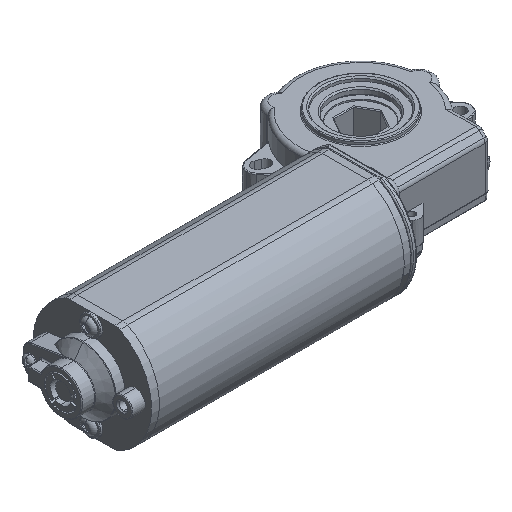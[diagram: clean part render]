
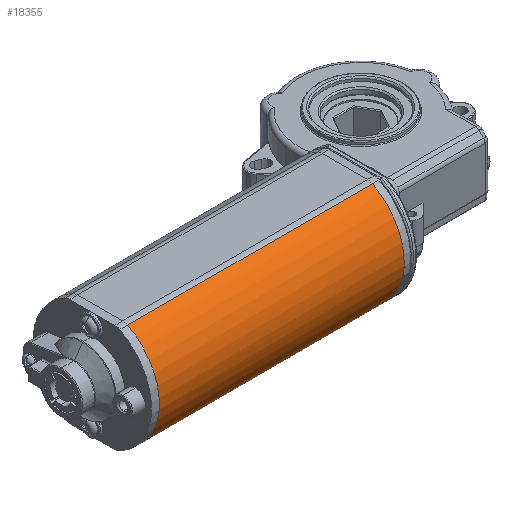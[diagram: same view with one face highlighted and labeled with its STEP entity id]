
A CAD part, isometric view. The second image highlights one B-rep face of the part: STEP entity #18355.
In plain terms, the highlighted cylindrical face has radius 22.5 mm (diameter 45 mm), a partial arc.
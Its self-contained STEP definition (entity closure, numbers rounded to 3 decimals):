
#107 = DIRECTION ( 'NONE',  ( 0., 0., -1. ) ) ;
#470 = DIRECTION ( 'NONE',  ( 1., 0., 0. ) ) ;
#852 = CIRCLE ( 'NONE', #2627, 22.5 ) ;
#1078 = VECTOR ( 'NONE', #32174, 1000. ) ;
#1565 = AXIS2_PLACEMENT_3D ( 'NONE', #14542, #32593, #107 ) ;
#2064 = EDGE_CURVE ( 'NONE', #16540, #20698, #21132, .T. ) ;
#2627 = AXIS2_PLACEMENT_3D ( 'NONE', #22466, #6780, #12507 ) ;
#2992 = FACE_OUTER_BOUND ( 'NONE', #14886, .T. ) ;
#3625 = CARTESIAN_POINT ( 'NONE',  ( -29., -45., -4.717 ) ) ;
#4183 = CARTESIAN_POINT ( 'NONE',  ( -29., -33.421, -19.941 ) ) ;
#5294 = LINE ( 'NONE', #18012, #31855 ) ;
#5464 = CIRCLE ( 'NONE', #25883, 22.5 ) ;
#6780 = DIRECTION ( 'NONE',  ( 1., 0., 0. ) ) ;
#7451 = DIRECTION ( 'NONE',  ( -1., 0., 0. ) ) ;
#7975 = CARTESIAN_POINT ( 'NONE',  ( -29., -23., 0. ) ) ;
#8438 = ORIENTED_EDGE ( 'NONE', *, *, #29490, .F. ) ;
#8440 = ORIENTED_EDGE ( 'NONE', *, *, #23278, .F. ) ;
#8530 = DIRECTION ( 'NONE',  ( 0., 1., 0. ) ) ;
#8867 = AXIS2_PLACEMENT_3D ( 'NONE', #23138, #7451, #32435 ) ;
#9129 = AXIS2_PLACEMENT_3D ( 'NONE', #7975, #470, #8530 ) ;
#9628 = ORIENTED_EDGE ( 'NONE', *, *, #22426, .F. ) ;
#12199 = CARTESIAN_POINT ( 'NONE',  ( -29., -34.855, -19.123 ) ) ;
#12507 = DIRECTION ( 'NONE',  ( 0., 1., 0. ) ) ;
#14542 = CARTESIAN_POINT ( 'NONE',  ( -125., -23., 0. ) ) ;
#14694 = CARTESIAN_POINT ( 'NONE',  ( -125., -33.421, -19.941 ) ) ;
#14799 = CARTESIAN_POINT ( 'NONE',  ( -29., -23., 0. ) ) ;
#14886 = EDGE_LOOP ( 'NONE', ( #31137, #27668, #8438, #35084, #9628, #8440 ) ) ;
#15358 = VERTEX_POINT ( 'NONE', #3625 ) ;
#15471 = EDGE_CURVE ( 'NONE', #18544, #15358, #852, .T. ) ;
#15552 = CARTESIAN_POINT ( 'NONE',  ( -122., -33.421, 19.941 ) ) ;
#16540 = VERTEX_POINT ( 'NONE', #32984 ) ;
#17539 = CIRCLE ( 'NONE', #8867, 22.5 ) ;
#18012 = CARTESIAN_POINT ( 'NONE',  ( -125., -33.421, 19.941 ) ) ;
#18355 = ADVANCED_FACE ( 'NONE', ( #2992 ), #25595, .T. ) ;
#18544 = VERTEX_POINT ( 'NONE', #33307 ) ;
#20698 = VERTEX_POINT ( 'NONE', #4183 ) ;
#21132 = LINE ( 'NONE', #14694, #1078 ) ;
#22426 = EDGE_CURVE ( 'NONE', #25201, #20698, #24747, .T. ) ;
#22466 = CARTESIAN_POINT ( 'NONE',  ( -29., -23., 0. ) ) ;
#23138 = CARTESIAN_POINT ( 'NONE',  ( -122., -23., 0. ) ) ;
#23278 = EDGE_CURVE ( 'NONE', #15358, #25201, #5464, .T. ) ;
#24443 = DIRECTION ( 'NONE',  ( -1., 0., 0. ) ) ;
#24747 = CIRCLE ( 'NONE', #9129, 22.5 ) ;
#25201 = VERTEX_POINT ( 'NONE', #12199 ) ;
#25595 = CYLINDRICAL_SURFACE ( 'NONE', #1565, 22.5 ) ;
#25883 = AXIS2_PLACEMENT_3D ( 'NONE', #14799, #29357, #35113 ) ;
#27668 = ORIENTED_EDGE ( 'NONE', *, *, #30509, .T. ) ;
#29357 = DIRECTION ( 'NONE',  ( 1., 0., 0. ) ) ;
#29490 = EDGE_CURVE ( 'NONE', #16540, #33506, #17539, .T. ) ;
#30509 = EDGE_CURVE ( 'NONE', #18544, #33506, #5294, .T. ) ;
#31137 = ORIENTED_EDGE ( 'NONE', *, *, #15471, .F. ) ;
#31855 = VECTOR ( 'NONE', #24443, 1000. ) ;
#32174 = DIRECTION ( 'NONE',  ( 1., 0., 0. ) ) ;
#32435 = DIRECTION ( 'NONE',  ( 0., 0., 1. ) ) ;
#32593 = DIRECTION ( 'NONE',  ( 1., 0., 0. ) ) ;
#32984 = CARTESIAN_POINT ( 'NONE',  ( -122., -33.421, -19.941 ) ) ;
#33307 = CARTESIAN_POINT ( 'NONE',  ( -29., -33.421, 19.941 ) ) ;
#33506 = VERTEX_POINT ( 'NONE', #15552 ) ;
#35084 = ORIENTED_EDGE ( 'NONE', *, *, #2064, .T. ) ;
#35113 = DIRECTION ( 'NONE',  ( 0., 1., 0. ) ) ;
